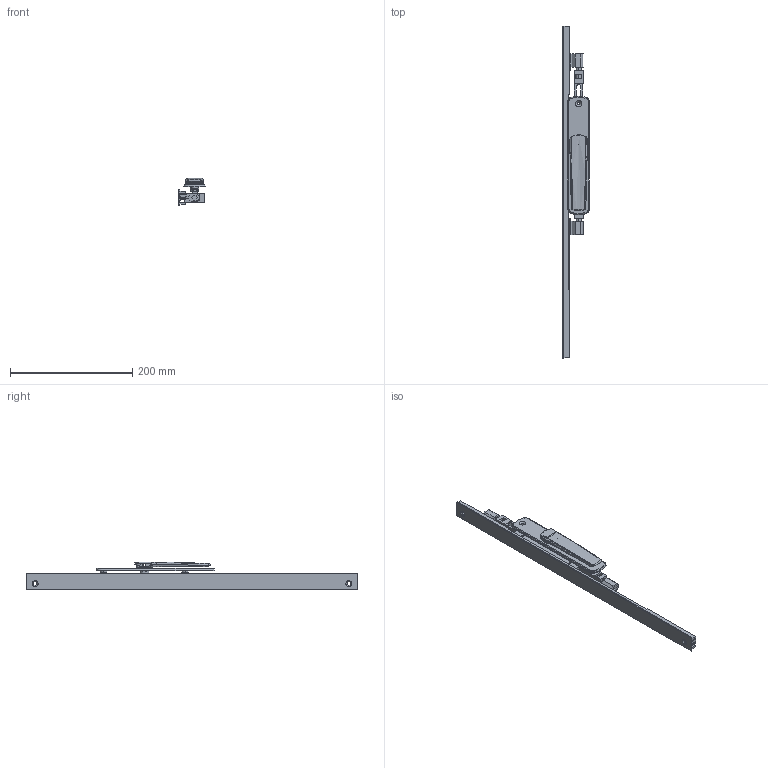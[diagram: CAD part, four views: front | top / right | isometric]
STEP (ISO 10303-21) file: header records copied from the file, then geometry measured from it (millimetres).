
FILE_DESCRIPTION (( 'STEP AP214' ), '1' );
FILE_NAME ('TPL-W-EU-602-L 06Nov2024.STEP', '2024-11-27T01:04:20', ( '' ), ( '' ), 'SwSTEP 2.0', 'SolidWorks 2023', '' );
FILE_SCHEMA (( 'AUTOMOTIVE_DESIGN' ));
Length unit declared in the file: millimetre
Products named in the file (18): Copy of Copy of LKC-531 Lock twinpoint transmission rod wood system^TPL-W-EU-102 04Nov2024_Standard Range 2891.7mm; Copy of LKC-585 Rotator body zinc^Copy of TPGen2 handle non-keyed short zinc - simplified_TPL-W-EU-102 04Nov2024; Copy of Adapter CnE - simplfied^TPL-W-EU-102 04Nov2024_26mm backset; TPL-W-EU-602-L 06Nov2024; Copy of COV-112-A Cover A suit TPLGen2 standard range^TPL-W-EU-102 04Nov2024_1335mm; Copy of LKC-505 Swing handle zinc - simplified^Copy of TPGen2 handle non-keyed short zinc - simplified_TPL-W-EU-102 04Nov2024; Copy of LKC-586 Spindle square 8mm with M4 hole^Copy of TPGen2 handle non-keyed short zinc - simplified_TPL-W-EU-102 04Nov2024_25mm; LKC-531 Lock twinpoint transmission rod wood system^TPL-W-EU-102 04Nov2024_Standard Range 2891.7mm; Bolt(2)^TPL-W-EU-102 04Nov2024; Copy of TPGen2 handle non-keyed short zinc - simplified^TPL-W-EU-102 04Nov2024_Vertical; Copy of TPLGen2 lock body non-keyed assembly^TPL-W-EU-102 04Nov2024_Bolts extended; Copy of LKC-584 Pivot body zinc - simplified^Copy of TPGen2 handle non-keyed short zinc - simplified_TPL-W-EU-102 04Nov2024; Copy of LKC-516 Escutcheon plate unkeyed 195mm long zinc - simplified^Copy of TPGen2 handle non-keyed short zinc - simplified_TPL-W-EU-102 04Nov2024; COV-112-B Cover B suit TPLGen2 standard range^TPL-W-EU-102 04Nov2024_2870mm; Copy of TPLGen2 lock body non-keyed^Copy of TPLGen2 lock body non-keyed assembly_TPL-W-EU-102 04Nov2024; Copy of Adapter DnF - simplfied^TPL-W-EU-102 04Nov2024_26mm backset; Copy of COV-112-C Cover C TPLGen2 Lock body^TPL-W-EU-102 04Nov2024; TPLGen2 push rod - simplified^Copy of TPLGen2 lock body non-keyed assembly_TPL-W-EU-102 04Nov2024_Female thread M10
Assembly tree (15 placements, depth 3):
  TPL-W-EU-602-L 06Nov2024
    Copy of TPLGen2 lock body non-keyed assembly^TPL-W-EU-102 04Nov2024_Bolts extended
      Copy of TPLGen2 lock body non-keyed^Copy of TPLGen2 lock body non-keyed assembly_TPL-W-EU-102 04Nov2024
      TPLGen2 push rod - simplified^Copy of TPLGen2 lock body non-keyed assembly_TPL-W-EU-102 04Nov2024_Female thread M10  x2
    Copy of TPGen2 handle non-keyed short zinc - simplified^TPL-W-EU-102 04Nov2024_Vertical
      Copy of LKC-516 Escutcheon plate unkeyed 195mm long zinc - simplified^Copy of TPGen2 handle non-keyed short zinc - simplified_TPL-W-EU-102 04Nov2024
      Copy of LKC-505 Swing handle zinc - simplified^Copy of TPGen2 handle non-keyed short zinc - simplified_TPL-W-EU-102 04Nov2024
      Copy of LKC-585 Rotator body zinc^Copy of TPGen2 handle non-keyed short zinc - simplified_TPL-W-EU-102 04Nov2024
      Copy of LKC-586 Spindle square 8mm with M4 hole^Copy of TPGen2 handle non-keyed short zinc - simplified_TPL-W-EU-102 04Nov2024_25mm
      Copy of LKC-584 Pivot body zinc - simplified^Copy of TPGen2 handle non-keyed short zinc - simplified_TPL-W-EU-102 04Nov2024
    Copy of COV-112-C Cover C TPLGen2 Lock body^TPL-W-EU-102 04Nov2024
    Copy of Copy of LKC-531 Lock twinpoint transmission rod wood system^TPL-W-EU-102 04Nov2024_Standard Range 2891.7mm
    LKC-531 Lock twinpoint transmission rod wood system^TPL-W-EU-102 04Nov2024_Standard Range 2891.7mm
    Copy of Adapter DnF - simplfied^TPL-W-EU-102 04Nov2024_26mm backset
    Copy of Adapter CnE - simplfied^TPL-W-EU-102 04Nov2024_26mm backset
  Copy of COV-112-A Cover A suit TPLGen2 standard range^TPL-W-EU-102 04Nov2024_1335mm
  Bolt(2)^TPL-W-EU-102 04Nov2024
  COV-112-B Cover B suit TPLGen2 standard range^TPL-W-EU-102 04Nov2024_2870mm
Bounding box: 43.5 x 544 x 45.86 mm (x, y, z)
Volume: 207002.8 mm3; surface area: 118615.4 mm2
Topology: 13 solids, 13 shells, 851 faces, 2100 edges, 1304 vertices
Faces by surface type: plane 304, bspline 241, cylinder 186, cone 66, torus 46, sphere 8
Entity records: 30683 total; most frequent: CARTESIAN_POINT 12559, ORIENTED_EDGE 4008, DIRECTION 3198, EDGE_CURVE 2004, VERTEX_POINT 1244, AXIS2_PLACEMENT_3D 1157, EDGE_LOOP 898, LINE 884
